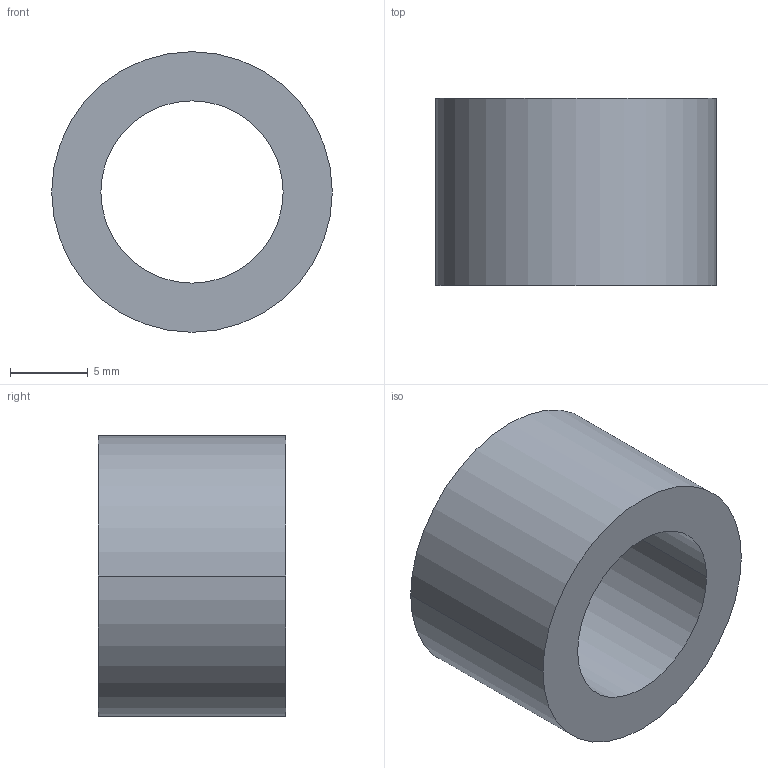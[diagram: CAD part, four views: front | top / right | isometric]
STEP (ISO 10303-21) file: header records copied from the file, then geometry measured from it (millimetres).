
FILE_DESCRIPTION (( 'STEP AP203' ), '1' );
FILE_NAME ('30800.WPP18E11.7.step', '2019-01-23T22:37:56', ( '' ), ( '' ), 'SwSTEP 2.0', 'SolidWorks 2017', '' );
FILE_SCHEMA (( 'CONFIG_CONTROL_DESIGN' ));
Length unit declared in the file: millimetre
Products named in the file (1): 30800.WPP18E11.7
Bounding box: 18 x 12 x 18 mm (x, y, z)
Volume: 1729.5 mm3; surface area: 1383.8 mm2
Topology: 1 solids, 1 shells, 8 faces, 16 edges, 10 vertices
Faces by surface type: cylinder 4, torus 2, plane 2
Entity records: 297 total; most frequent: DIRECTION 46, CARTESIAN_POINT 35, ORIENTED_EDGE 32, AXIS2_PLACEMENT_3D 21, EDGE_CURVE 16, CIRCLE 12, VERTEX_POINT 10, EDGE_LOOP 10
